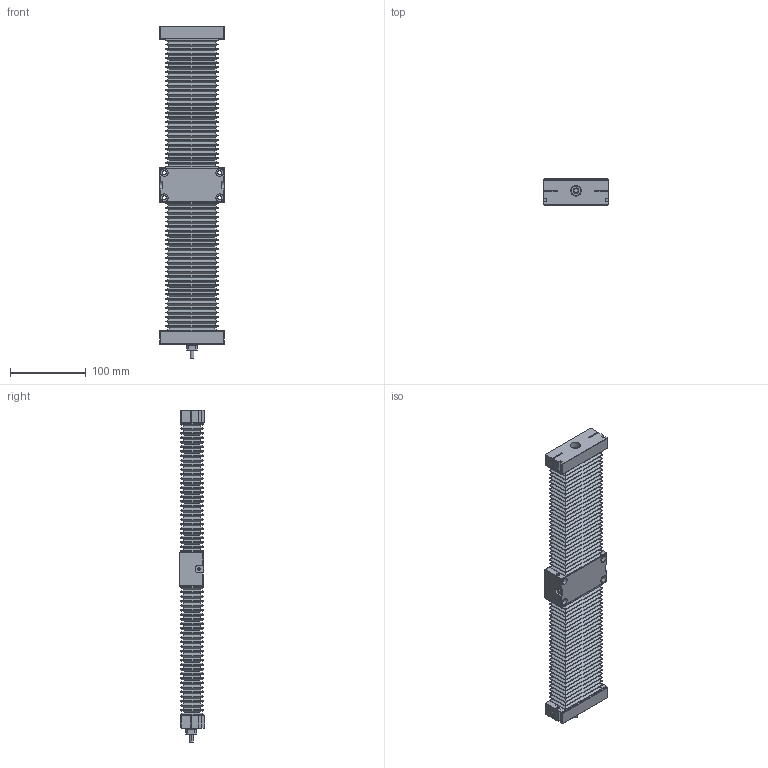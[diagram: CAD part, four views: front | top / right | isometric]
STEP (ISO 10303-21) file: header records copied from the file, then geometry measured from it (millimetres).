
FILE_DESCRIPTION (( 'STEP AP214' ), '1' );
FILE_NAME ('TKC0802B-200H0C-Ä£×é.step', '2025-08-25T08:36:07', ( '' ), ( '' ), 'SwSTEP 2.0', 'SolidWorks 2024', '' );
FILE_SCHEMA (( 'AUTOMOTIVE_DESIGN' ));
Length unit declared in the file: millimetre
Products named in the file (4): TKC08-200-01; TKC08-200-03; TKC0802B-200H0C-模组; TKC08-02
Assembly tree (4 placements, depth 2):
  TKC0802B-200H0C-模组
    TKC08-02
    TKC08-200-01
    TKC08-200-03  x2
Bounding box: 85 x 34 x 438 mm (x, y, z)
Volume: 662806.7 mm3; surface area: 260056.6 mm2
Topology: 10 solids, 16 shells, 1410 faces, 3176 edges, 1840 vertices
Faces by surface type: plane 1001, cylinder 328, cone 42, torus 28, bspline 11
Entity records: 37112 total; most frequent: CARTESIAN_POINT 13210, ORIENTED_EDGE 4808, DIRECTION 4749, EDGE_CURVE 2404, LINE 1629, VECTOR 1629, AXIS2_PLACEMENT_3D 1560, VERTEX_POINT 1456
